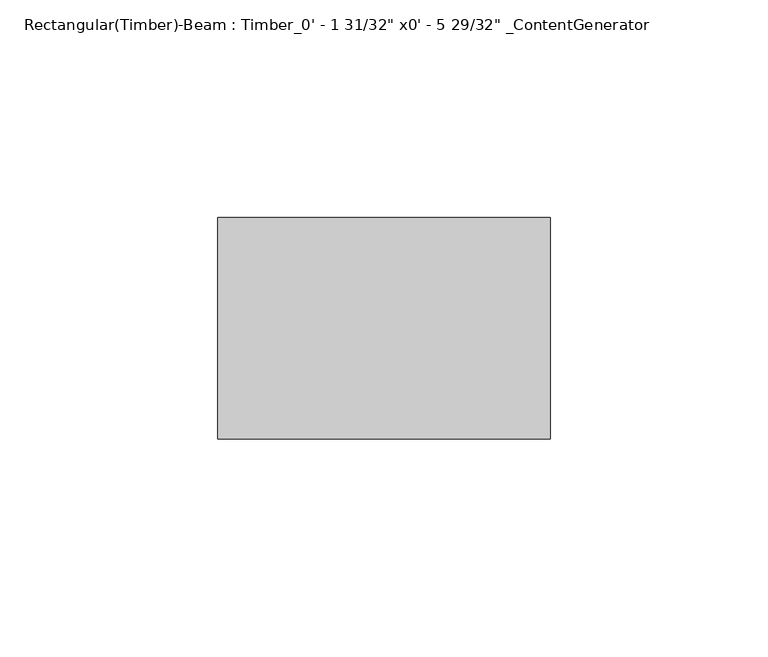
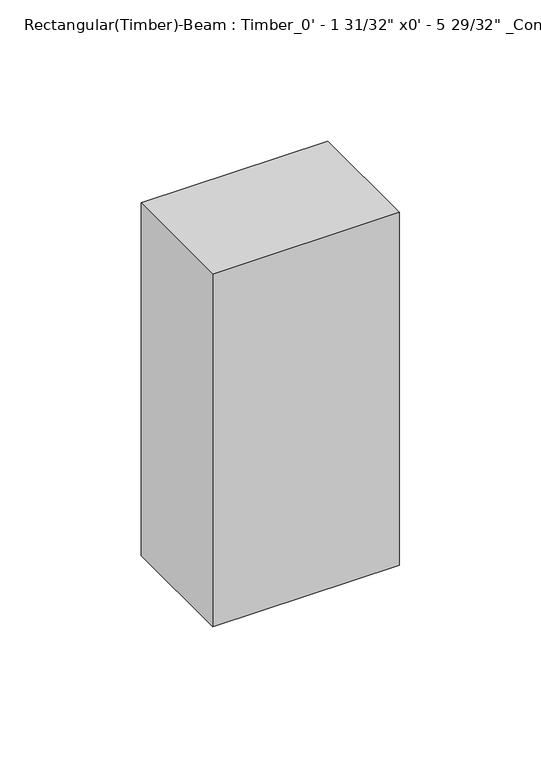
"""IFC4 building model written with IfcOpenShell, lengths in millimetres: beam geometry."""

import ifcopenshell
import ifcopenshell.guid

model = None  # the IFC model being written
_history = None  # IfcOwnerHistory: only IFC2X3 demands one
_inside = {}  # id of a spatial element -> (the spatial element, [elements in it])
_under = {}  # id of a project, library or spatial element -> (it, [spatial elements below it])
_declared = {}  # id of a project -> (the project, [libraries it declares])
_typed = {}  # id of a type object -> (the type object, [elements of that type])
_made_of = {}  # id of a material, layer set ... -> (it, [elements and type objects made of it])


def new_model(schema):
    """Start an empty IFC model of exactly this schema.

    Asked for "IFC4X3", IfcOpenShell would pick the latest addendum, in which some entities
    have other attributes; the version numbers below select the first issue.
    IFC2X3 requires an IfcOwnerHistory on every rooted entity: one is made here for all.
    """
    global model, _history
    if schema == "IFC4X3":
        model = ifcopenshell.file(schema_version=(4, 3, 0, 0))
    else:
        model = ifcopenshell.file(schema=schema)
    _inside.clear()
    _under.clear()
    _declared.clear()
    _typed.clear()
    _made_of.clear()
    _history = None
    if model.schema == "IFC2X3":
        org = make("IfcOrganization", Name="unknown")
        user = make(
            "IfcPersonAndOrganization",
            ThePerson=make("IfcPerson", FamilyName="unknown"),
            TheOrganization=org,
        )
        app = make(
            "IfcApplication",
            ApplicationDeveloper=org,
            Version="unknown",
            ApplicationFullName="unknown",
            ApplicationIdentifier="unknown",
        )
        _history = make(
            "IfcOwnerHistory",
            OwningUser=user,
            OwningApplication=app,
            ChangeAction="ADDED",
            CreationDate=0,
        )
    return model


def make(cls, **values):
    """One entity of the class cls with the attributes given. An attribute that is None is left unset."""
    return model.create_entity(
        cls, **{name: value for name, value in values.items() if value is not None}
    )


def rooted(cls, **values):
    """An entity with a GlobalId (a new one), such as an element, a storey or a relation."""
    return make(cls, GlobalId=ifcopenshell.guid.new(), OwnerHistory=_history, **values)


def si_unit(unit_type, name, prefix=None):
    """IfcSIUnit, for example si_unit("LENGTHUNIT", "METRE", prefix="MILLI")."""
    return make("IfcSIUnit", UnitType=unit_type, Prefix=prefix, Name=name)


def assignment(units):
    """IfcUnitAssignment: the units of a project."""
    return None if units is None else make("IfcUnitAssignment", Units=units)


def point(xyz):
    """IfcCartesianPoint."""
    return None if xyz is None else make("IfcCartesianPoint", Coordinates=xyz)


def direction(xyz):
    """IfcDirection."""
    return None if xyz is None else make("IfcDirection", DirectionRatios=xyz)


def frame(location, z_axis=None, x_axis=None):
    """IfcAxis2Placement3D, a coordinate frame: its origin and axes. An axis left out is left unset."""
    return make(
        "IfcAxis2Placement3D",
        Location=point(location),
        Axis=direction(z_axis),
        RefDirection=direction(x_axis),
    )


def origin():
    """The frame at (0, 0, 0) with its axes left unset."""
    return frame((0.0, 0.0, 0.0))


def place(relative_to, where):
    """IfcLocalPlacement: puts the frame where relative to a parent placement (None: the world)."""
    return make(
        "IfcLocalPlacement", PlacementRelTo=relative_to, RelativePlacement=where
    )


def context(
    kind, dimensions, precision=None, world=None, true_north=None, identifier=None
):
    """IfcGeometricRepresentationContext, for example the 3D "Model" context."""
    return make(
        "IfcGeometricRepresentationContext",
        ContextIdentifier=identifier,
        ContextType=kind,
        CoordinateSpaceDimension=dimensions,
        Precision=precision,
        WorldCoordinateSystem=world,
        TrueNorth=true_north,
    )


def project(units=None, contexts=None):
    """IfcProject with its units and contexts."""
    return rooted(
        "IfcProject",
        Name="project",
        RepresentationContexts=contexts,
        UnitsInContext=assignment(units),
    )


def spatial(cls, under=None, at=None, **own):
    """A site, building, storey or space (cls), placed at a placement, below another one or the project."""
    s = rooted(cls, ObjectPlacement=at, **own)
    if under is not None:
        _under.setdefault(under.id(), (under, []))[1].append(s)
    return s


def polyline(points):
    """IfcPolyline through the points."""
    return make("IfcPolyline", Points=[point(p) for p in points])


def outline(outer, holes=None, kind="AREA"):
    """IfcArbitraryClosedProfileDef: a profile drawn as a closed curve; with holes, ...WithVoids."""
    if holes is None:
        return make("IfcArbitraryClosedProfileDef", ProfileType=kind, OuterCurve=outer)
    return make(
        "IfcArbitraryProfileDefWithVoids",
        ProfileType=kind,
        OuterCurve=outer,
        InnerCurves=holes,
    )


def extrude(swept, where, along, depth):
    """IfcExtrudedAreaSolid: the profile swept, set in the frame where, extruded along a direction by depth."""
    return make(
        "IfcExtrudedAreaSolid",
        SweptArea=swept,
        Position=where,
        ExtrudedDirection=direction(along),
        Depth=depth,
    )


def shape(context_of_items, identifier, shape_type, items):
    """IfcShapeRepresentation: the items that make up one representation, for example the "Body"."""
    return make(
        "IfcShapeRepresentation",
        ContextOfItems=context_of_items,
        RepresentationIdentifier=identifier,
        RepresentationType=shape_type,
        Items=items,
    )


def source(mapping_origin, context_of_items, identifier, shape_type, items):
    """IfcRepresentationMap: a shape defined once, which mapped items show again and again."""
    return make(
        "IfcRepresentationMap",
        MappingOrigin=mapping_origin,
        MappedRepresentation=shape(context_of_items, identifier, shape_type, items),
    )


def transform(
    local_origin,
    x_axis=None,
    y_axis=None,
    z_axis=None,
    scale=None,
    scale2=None,
    scale3=None,
    uniform=True,
):
    """IfcCartesianTransformationOperator3D, or its non-uniform kind. x_axis, y_axis, z_axis: its Axis1, 2, 3."""
    if uniform:
        return make(
            "IfcCartesianTransformationOperator3D",
            Axis1=direction(x_axis),
            Axis2=direction(y_axis),
            LocalOrigin=point(local_origin),
            Scale=scale,
            Axis3=direction(z_axis),
        )
    return make(
        "IfcCartesianTransformationOperator3DnonUniform",
        Axis1=direction(x_axis),
        Axis2=direction(y_axis),
        LocalOrigin=point(local_origin),
        Scale=scale,
        Axis3=direction(z_axis),
        Scale2=scale2,
        Scale3=scale3,
    )


def mapped(mapping_source, mapping_target):
    """IfcMappedItem: shows the shape of a source again, moved by a transform."""
    return make(
        "IfcMappedItem", MappingSource=mapping_source, MappingTarget=mapping_target
    )


def made_of(thing, what):
    """Note that an element or type object is made of a material, layer set ...; save() writes the relation."""
    if what is not None:
        _made_of.setdefault(what.id(), (what, []))[1].append(thing)
    return thing


def element(
    cls,
    number,
    at=None,
    inside=None,
    cuts=None,
    type_object=None,
    material=None,
    context=None,
    identifier="Body",
    shape_type=None,
    held_by="IfcProductDefinitionShape",
    body=None,
    shapes=None,
    **own,
):
    """One element of the class cls, such as IfcWall. Its Tag is "e" and its number.

    at: its placement. inside: the storey or other place that contains it. cuts: it is an
    opening in that element (IfcRelVoidsElement). A single representation is given by context,
    identifier, shape_type and body (its items); several are given by shapes. held_by: the class
    of the entity that holds the representations. save() writes the other relations.
    """
    e = rooted(cls, Tag="e%d" % number, ObjectPlacement=at, **own)
    if body is not None:
        shapes = [shape(context, identifier, shape_type, body)]
    if shapes is not None:
        e.Representation = make(held_by, Representations=shapes)
    if inside is not None:
        _inside.setdefault(inside.id(), (inside, []))[1].append(e)
    if cuts is not None:
        rooted(
            "IfcRelVoidsElement", RelatingBuildingElement=cuts, RelatedOpeningElement=e
        )
    if type_object is not None:
        _typed.setdefault(type_object.id(), (type_object, []))[1].append(e)
    return made_of(e, material)


def aggregate(whole, parts):
    """IfcRelAggregates: a whole, such as a stair, and the parts it consists of."""
    return rooted("IfcRelAggregates", RelatingObject=whole, RelatedObjects=parts)


def save(model, path):
    """Write the relations noted so far, then the file.

    IfcRelAggregates (storeys below a building ...), IfcRelContainedInSpatialStructure (elements
    in a storey), IfcRelDefinesByType, IfcRelAssociatesMaterial and IfcRelDeclares: one each for
    every whole, place, type object, material and project.
    """
    for whole, parts in _under.values():
        aggregate(whole, parts)
    for where, things in _inside.values():
        rooted(
            "IfcRelContainedInSpatialStructure",
            RelatedElements=things,
            RelatingStructure=where,
        )
    for kind, things in _typed.values():
        rooted("IfcRelDefinesByType", RelatedObjects=things, RelatingType=kind)
    for what, things in _made_of.values():
        rooted("IfcRelAssociatesMaterial", RelatedObjects=things, RelatingMaterial=what)
    for by, libraries in _declared.values():
        rooted("IfcRelDeclares", RelatingContext=by, RelatedDefinitions=libraries)
    model.write(path)


def beam_4a917e0c(model_context):
    return source(origin(), model_context, "Body", "SweptSolid", [
        extrude(outline(polyline([(31.7400254, 25.4), (31.7400254, -25.4), (-44.45, -25.4), (-44.45, 25.4), (31.7400254, 25.4)])), frame((0.0, 0.0, -76.2), z_axis=(0.0, 0.0, 1.0), x_axis=(1.0, 0.0, 0.0)), (0.0, 0.0, 1.0), 152.4),
    ])


if __name__ == "__main__":
    model = new_model("IFC4")
    model_context = context("Model", 3, world=origin())
    ifc_project = project(units=[si_unit("LENGTHUNIT", "METRE", prefix="MILLI")], contexts=[model_context])
    site = spatial("IfcSite", under=ifc_project)
    building = spatial("IfcBuilding", under=site)
    placement = place(None, origin())
    beam_shape = beam_4a917e0c(model_context)
    element("IfcBeam", 1, ObjectType="Rectangular(Timber)-Beam : Timber_0' - 1 31/32\" x0' - 5 29/32\" _ContentGenerator", at=placement, inside=building, context=model_context, shape_type="MappedRepresentation", body=[
        mapped(beam_shape, transform((0.0, 0.0, 0.0), x_axis=(1.0, 0.0, 0.0), y_axis=(0.0, 1.0, 0.0), z_axis=(0.0, 0.0, 1.0))),
    ])
    save(model, "model.ifc")
